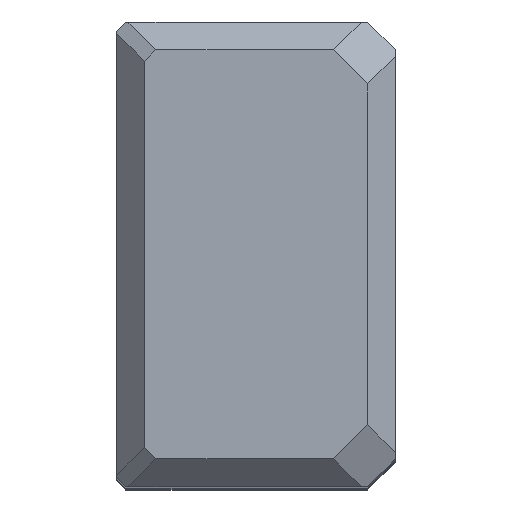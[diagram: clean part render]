
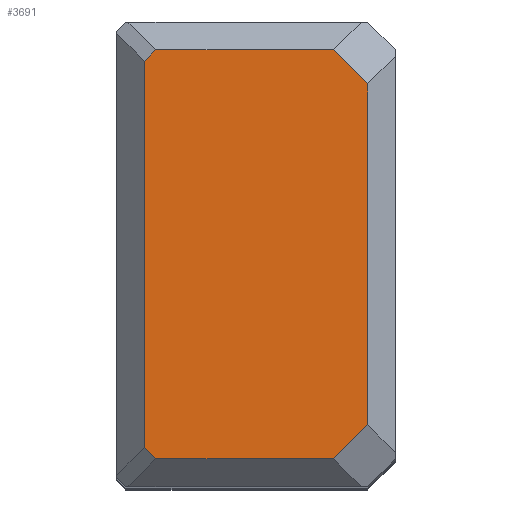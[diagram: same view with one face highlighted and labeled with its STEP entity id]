
A CAD part, top view. The second image highlights one B-rep face of the part: STEP entity #3691.
In plain terms, the highlighted planar face has unit normal (0, 0, 1).
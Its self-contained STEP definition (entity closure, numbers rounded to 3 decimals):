
#95=VERTEX_POINT(' ',#96);
#96=CARTESIAN_POINT('',(-3.,-18.326,0.));
#97=VERTEX_POINT(' ',#98);
#98=CARTESIAN_POINT('',(-6.674,-22.,0.));
#127=VERTEX_POINT(' ',#128);
#128=CARTESIAN_POINT('',(-3.,18.326,0.));
#135=VERTEX_POINT(' ',#136);
#136=CARTESIAN_POINT('',(-6.674,22.,0.));
#173=VERTEX_POINT(' ',#174);
#174=CARTESIAN_POINT('',(-25.775,-22.,0.));
#181=VERTEX_POINT(' ',#182);
#182=CARTESIAN_POINT('',(-27.,-20.775,0.));
#199=VERTEX_POINT(' ',#200);
#200=CARTESIAN_POINT('',(-27.,20.775,0.));
#203=VERTEX_POINT(' ',#204);
#204=CARTESIAN_POINT('',(-25.775,22.,0.));
#712=LINE('',#713,#714);
#713=CARTESIAN_POINT('',(7.663,-7.663,0.));
#714=VECTOR('',#715,1.);
#715=DIRECTION('',(0.707,0.707,0.));
#716=EDGE_CURVE(' ',#95,#97,#712,.F.);
#842=LINE('',#843,#844);
#843=CARTESIAN_POINT('',(-3.,-25.12,0.));
#844=VECTOR('',#845,1.);
#845=DIRECTION('',(0.,1.,0.));
#846=EDGE_CURVE(' ',#95,#127,#842,.T.);
#867=LINE('',#868,#869);
#868=CARTESIAN_POINT('',(7.663,7.663,0.));
#869=VECTOR('',#870,1.);
#870=DIRECTION('',(-0.707,0.707,0.));
#871=EDGE_CURVE(' ',#135,#127,#867,.F.);
#1056=LINE('',#1057,#1058);
#1057=CARTESIAN_POINT('',(-30.12,-22.,0.));
#1058=VECTOR('',#1059,1.);
#1059=DIRECTION('',(1.,0.,0.));
#1060=EDGE_CURVE(' ',#173,#97,#1056,.T.);
#1071=LINE('',#1072,#1073);
#1072=CARTESIAN_POINT('',(-23.888,-23.888,0.));
#1073=VECTOR('',#1074,1.);
#1074=DIRECTION('',(0.707,-0.707,0.));
#1075=EDGE_CURVE(' ',#173,#181,#1071,.F.);
#1163=LINE('',#1164,#1165);
#1164=CARTESIAN_POINT('',(-27.,-25.12,0.));
#1165=VECTOR('',#1166,1.);
#1166=DIRECTION('',(0.,1.,0.));
#1167=EDGE_CURVE(' ',#181,#199,#1163,.T.);
#1168=LINE('',#1169,#1170);
#1169=CARTESIAN_POINT('',(-23.888,23.888,0.));
#1170=VECTOR('',#1171,1.);
#1171=DIRECTION('',(-0.707,-0.707,0.));
#1172=EDGE_CURVE(' ',#199,#203,#1168,.F.);
#1173=LINE('',#1174,#1175);
#1174=CARTESIAN_POINT('',(-30.12,22.,0.));
#1175=VECTOR('',#1176,1.);
#1176=DIRECTION('',(1.,0.,0.));
#1177=EDGE_CURVE(' ',#135,#203,#1173,.F.);
#3676=ORIENTED_EDGE('',*,*,#1172,.F.);
#3677=ORIENTED_EDGE('',*,*,#1167,.F.);
#3678=ORIENTED_EDGE('',*,*,#1075,.F.);
#3679=ORIENTED_EDGE('',*,*,#1060,.T.);
#3680=ORIENTED_EDGE('',*,*,#716,.F.);
#3681=ORIENTED_EDGE('',*,*,#846,.T.);
#3682=ORIENTED_EDGE('',*,*,#871,.F.);
#3683=ORIENTED_EDGE('',*,*,#1177,.T.);
#3684=EDGE_LOOP('',(#3676,#3677,#3678,#3679,#3680,#3681,#3682,#3683));
#3685=FACE_OUTER_BOUND('',#3684,.T.);
#3686=PLANE('',#3687);
#3687=AXIS2_PLACEMENT_3D('',#3688,#3689,#3690);
#3688=CARTESIAN_POINT('',(-27.,0.,0.));
#3689=DIRECTION('',(0.,0.,1.));
#3690=DIRECTION('',(1.,0.,0.));
#3691=ADVANCED_FACE('',(#3685),#3686,.T.);
